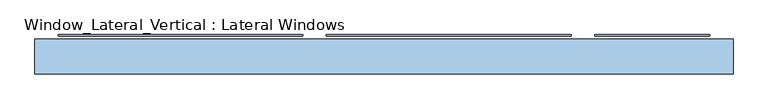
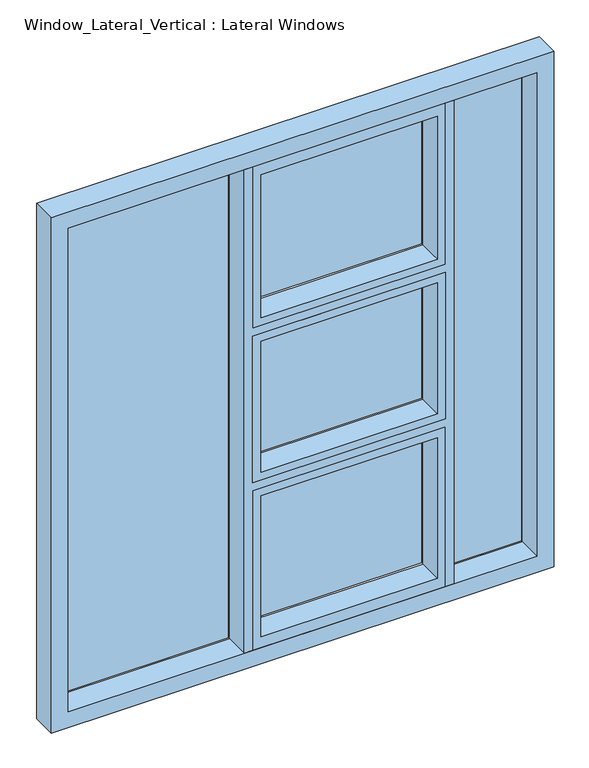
"""IFC4 building model written with IfcOpenShell, lengths in millimetres: window geometry, Window_Lateral_Vertical : Lateral Windows."""

from ifc_helpers import new_model, si_unit, frame, origin, place, context, project, spatial, polyline, outline, extrude, source, transform, mapped, element, save


def window_lateral_vertical_lateral_windows_7704e6dc(model_context):
    return source(origin(), model_context, "Body", "SweptSolid", [
        extrude(outline(polyline([(4216.4, 1524.0), (4216.4, -1524.0), (914.4, -1524.0), (914.4, 1524.0), (4216.4, 1524.0)]), holes=[polyline([(1016.0, 1422.4), (1016.0, -1422.4), (4114.8, -1422.4), (4114.8, 1422.4), (1016.0, 1422.4)])]), frame((0.0, -76.2, 0.0), z_axis=(0.0, 1.0, 0.0), x_axis=(0.0, 0.0, 1.0)), (0.0, 0.0, 1.0), 152.4),
        extrude(outline(polyline([(-355.1092545, 95.25), (-355.1092545, 88.9), (-1422.4, 88.9), (-1422.4, 95.25), (-355.1092545, 95.25)])), frame((0.0, 0.0, 1016.0), z_axis=(0.0, 0.0, 1.0), x_axis=(1.0, 0.0, 0.0)), (0.0, 0.0, 1.0), 3098.8),
        extrude(outline(polyline([(1422.4, 95.25), (1422.4, 88.9), (919.0181818, 88.9), (919.0181818, 95.25), (1422.4, 95.25)])), frame((0.0, 0.0, 1016.0), z_axis=(0.0, 0.0, 1.0), x_axis=(1.0, 0.0, 0.0)), (0.0, 0.0, 1.0), 3098.8),
        extrude(outline(polyline([(4114.8, 868.2181818), (3080.3272727, 868.2181818), (3080.3272727, -302.4909091), (4114.8, -302.4909091), (4114.8, -353.2909091), (1016.0, -353.2909091), (1016.0, -302.4909091), (2038.9272727, -302.4909091), (2038.9272727, 868.2181818), (1016.0, 868.2181818), (1016.0, 919.0181818), (4114.8, 919.0181818), (4114.8, 868.2181818)]), holes=[polyline([(2089.7272727, 868.2181818), (2089.7272727, -302.4909091), (3029.5272727, -302.4909091), (3029.5272727, 868.2181818), (2089.7272727, 868.2181818)])]), frame((0.0, -76.2, 0.0), z_axis=(0.0, 1.0, 0.0), x_axis=(0.0, 0.0, 1.0)), (0.0, 0.0, 1.0), 152.4),
        extrude(outline(polyline([(2038.9272727, -302.4909091), (1016.0, -302.4909091), (1016.0, 868.2181818), (2038.9272727, 868.2181818), (2038.9272727, -302.4909091)]), holes=[polyline([(1085.2727273, 817.4181818), (1085.2727273, -251.6909091), (1988.1272727, -251.6909091), (1988.1272727, 817.4181818), (1085.2727273, 817.4181818)])]), frame((0.0, -76.2, 0.0), z_axis=(0.0, 1.0, 0.0), x_axis=(0.0, 0.0, 1.0)), (0.0, 0.0, 1.0), 152.4),
        extrude(outline(polyline([(4114.8, -302.4909091), (3080.3272727, -302.4909091), (3080.3272727, 868.2181818), (4114.8, 868.2181818), (4114.8, -302.4909091)]), holes=[polyline([(3131.1272727, 817.4181818), (3131.1272727, -251.6909091), (4045.5272727, -251.6909091), (4045.5272727, 817.4181818), (3131.1272727, 817.4181818)])]), frame((0.0, -76.2, 0.0), z_axis=(0.0, 1.0, 0.0), x_axis=(0.0, 0.0, 1.0)), (0.0, 0.0, 1.0), 152.4),
        extrude(outline(polyline([(3029.5272727, -302.4909091), (2089.7272727, -302.4909091), (2089.7272727, 868.2181818), (3029.5272727, 868.2181818), (3029.5272727, -302.4909091)]), holes=[polyline([(2140.5272727, 817.4181818), (2140.5272727, -251.6909091), (2978.7272727, -251.6909091), (2978.7272727, 817.4181818), (2140.5272727, 817.4181818)])]), frame((0.0, -76.2, 0.0), z_axis=(0.0, 1.0, 0.0), x_axis=(0.0, 0.0, 1.0)), (0.0, 0.0, 1.0), 152.4),
        extrude(outline(polyline([(817.4181818, 95.25), (817.4181818, 88.9), (-251.6909091, 88.9), (-251.6909091, 95.25), (817.4181818, 95.25)])), frame((0.0, 0.0, 3131.1272727), z_axis=(0.0, 0.0, 1.0), x_axis=(1.0, 0.0, 0.0)), (0.0, 0.0, 1.0), 914.4),
        extrude(outline(polyline([(817.4181818, 95.25), (817.4181818, 88.9), (-251.6909091, 88.9), (-251.6909091, 95.25), (817.4181818, 95.25)])), frame((0.0, 0.0, 2140.5272727), z_axis=(0.0, 0.0, 1.0), x_axis=(1.0, 0.0, 0.0)), (0.0, 0.0, 1.0), 838.2),
        extrude(outline(polyline([(817.4181818, 95.25), (817.4181818, 88.9), (-251.6909091, 88.9), (-251.6909091, 95.25), (817.4181818, 95.25)])), frame((0.0, 0.0, 1085.2727273), z_axis=(0.0, 0.0, 1.0), x_axis=(1.0, 0.0, 0.0)), (0.0, 0.0, 1.0), 902.8545455),
    ])


if __name__ == "__main__":
    model = new_model("IFC4")
    model_context = context("Model", 3, world=origin())
    ifc_project = project(units=[si_unit("LENGTHUNIT", "METRE", prefix="MILLI")], contexts=[model_context])
    site = spatial("IfcSite", under=ifc_project)
    building = spatial("IfcBuilding", under=site)
    placement = place(None, origin())
    window_lateral_vertical_lateral_windows_shape = window_lateral_vertical_lateral_windows_7704e6dc(model_context)
    element("IfcWindow", 1, ObjectType="Window_Lateral_Vertical : Lateral Windows", at=placement, inside=building, context=model_context, shape_type="MappedRepresentation", body=[
        mapped(window_lateral_vertical_lateral_windows_shape, transform((0.0, 0.0, 0.0), x_axis=(1.0, 0.0, 0.0), y_axis=(0.0, 1.0, 0.0), z_axis=(0.0, 0.0, 1.0))),
    ])
    save(model, "model.ifc")
